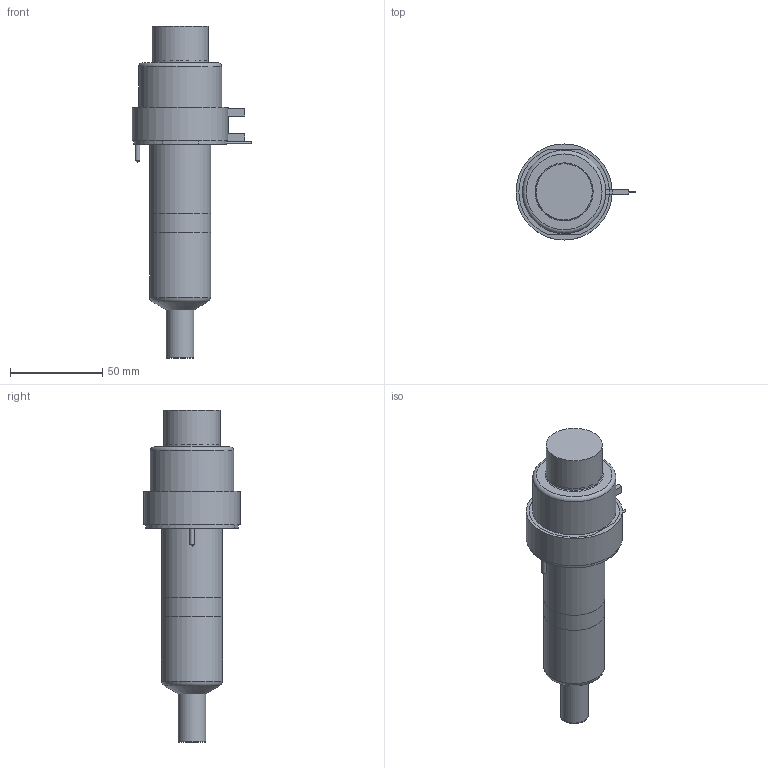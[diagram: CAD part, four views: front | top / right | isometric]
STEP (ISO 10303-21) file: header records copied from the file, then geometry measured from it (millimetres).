
FILE_DESCRIPTION(/* description */ (''),/* implementation_level */ '2;1');
FILE_NAME(/* name */ 'SXYCN19095P7F_250C_a',/* time_stamp */ '2016-03-04T10:36:52+13:00',/* author */ (''),/* organization */ (''),/* preprocessor_version */ 'ST-DEVELOPER v9',/* originating_system */ 'UGS - NX 4.0',/* authorisation */ '');
FILE_SCHEMA (('CONFIG_CONTROL_DESIGN'));
Length unit declared in the file: millimetre
Products named in the file (1): mattD74Dhdw3
Bounding box: 64.85 x 52 x 179.6 mm (x, y, z)
Volume: 304687.4 mm3; surface area: 46603.9 mm2
Topology: 7 solids, 7 shells, 91 faces, 175 edges, 112 vertices
Faces by surface type: plane 45, cylinder 29, torus 8, cone 7, bspline 1, sphere 1
Full cylindrical faces by diameter (mm): 1 x3, 2.2 x1, 2.5 x2, 7 x1, 8 x1, 14.61 x1, 14.995 x2, 18.3 x1, 28.6 x1, 30 x1, 30.4 x1, 33 x2, 38.1 x1, 45 x1, 50 x1, 52 x1
Entity records: 2230 total; most frequent: CARTESIAN_POINT 435, DIRECTION 378, ORIENTED_EDGE 266, AXIS2_PLACEMENT_3D 164, EDGE_LOOP 140, EDGE_CURVE 133, VERTEX_POINT 106, ADVANCED_FACE 91
